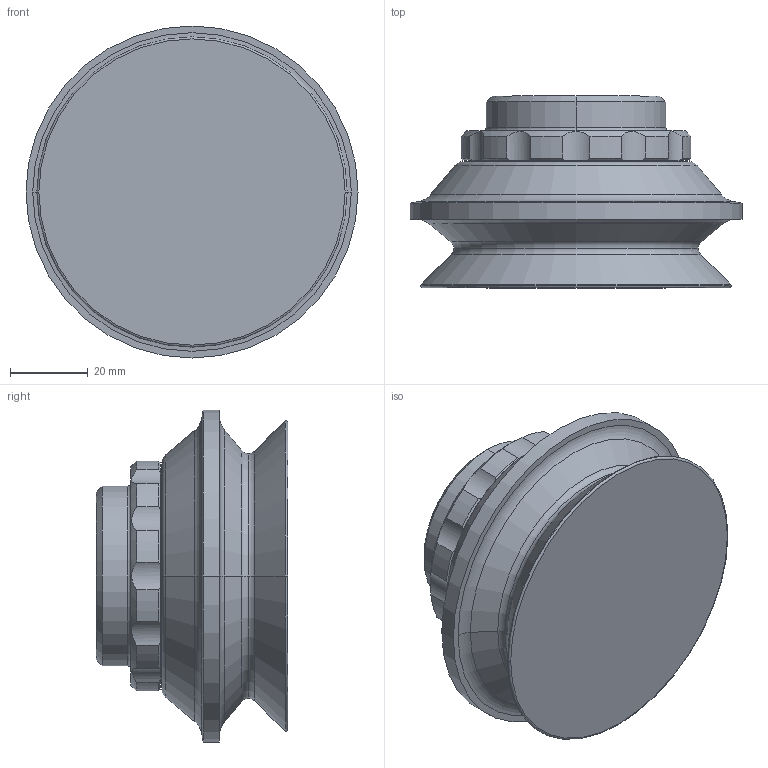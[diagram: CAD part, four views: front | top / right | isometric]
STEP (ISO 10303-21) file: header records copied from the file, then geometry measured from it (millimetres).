
FILE_DESCRIPTION (( 'STEP AP203' ), '1' );
FILE_NAME ('XP-B75-12F-PUBLIC.STEP', '2011-05-16T17:27:34', ( '' ), ( '' ), 'SwSTEP 2.0', 'SolidWorks 2011', '' );
FILE_SCHEMA (( 'CONFIG_CONTROL_DESIGN' ));
Length unit declared in the file: inch
Products named in the file (1): XP-B75-12F-PUBLIC
Bounding box: 85.34 x 49.28 x 85.34 mm (x, y, z)
Volume: 166227.5 mm3; surface area: 22842.9 mm2
Topology: 1 solids, 1 shells, 84 faces, 204 edges, 127 vertices
Faces by surface type: cylinder 35, cone 26, torus 16, plane 7
Entity records: 2832 total; most frequent: CARTESIAN_POINT 768, DIRECTION 445, ORIENTED_EDGE 408, EDGE_CURVE 204, AXIS2_PLACEMENT_3D 198, VERTEX_POINT 127, CIRCLE 113, EDGE_LOOP 89
